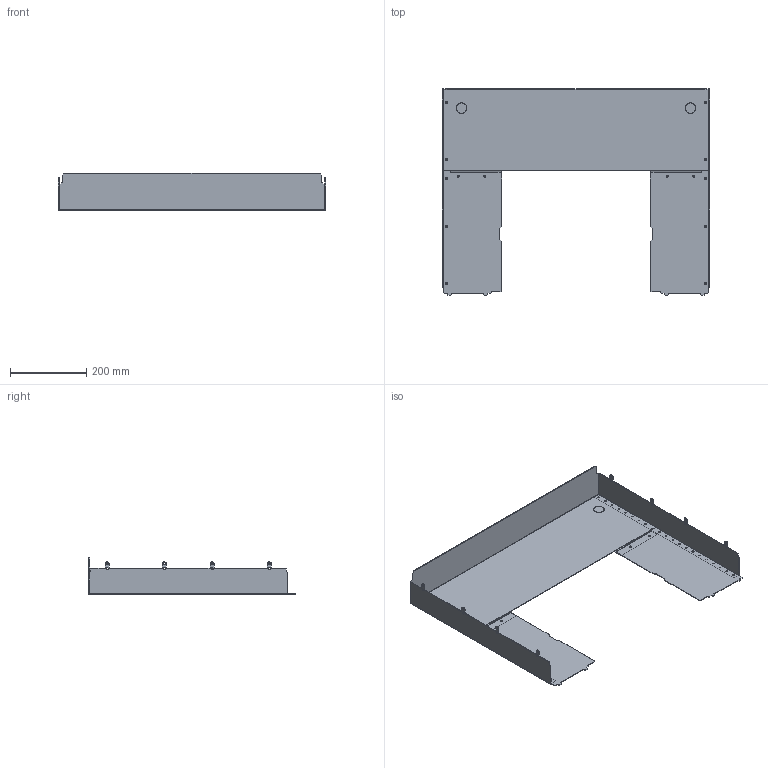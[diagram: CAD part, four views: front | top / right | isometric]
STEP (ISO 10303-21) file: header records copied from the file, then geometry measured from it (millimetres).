
FILE_DESCRIPTION(('CAx-IF Rec.Pracs.---Model Styling and Organization---1.2---2011-12-15','CAx-IF Rec.Pracs.---Geometric and Assembly Validation Properties---4.1---2014-06-16','CAx-IF Rec.Pracs.---PMI Polyline Presentation---2.0---2013-05-24'),'2;1');
FILE_NAME('R5FRC7V81125.stp','2021-07-29T02:06:10+03:00',(''),(''),'STEP Interface 4.4 by CT CoreTechnologie','3D_Evolution4.4 by CT CoreTechnologie','');
FILE_SCHEMA(('AUTOMOTIVE_DESIGN { 1 0 10303 214 1 1 1 1 }'));
Length unit declared in the file: millimetre
Products named in the file (1): R5FRC6V81125
Bounding box: 700 x 540 x 98.5 mm (x, y, z)
Surface area: 829291.6 mm2 (no closed solid volume)
Topology: 0 solids, 7 shells, 376 faces, 1070 edges, 708 vertices
Faces by surface type: cylinder 190, plane 186
Entity records: 12664 total; most frequent: DIRECTION 2204, CARTESIAN_POINT 2155, ORIENTED_EDGE 2140, EDGE_CURVE 1070, AXIS2_PLACEMENT_3D 757, VERTEX_POINT 708, VECTOR 690, LINE 690
